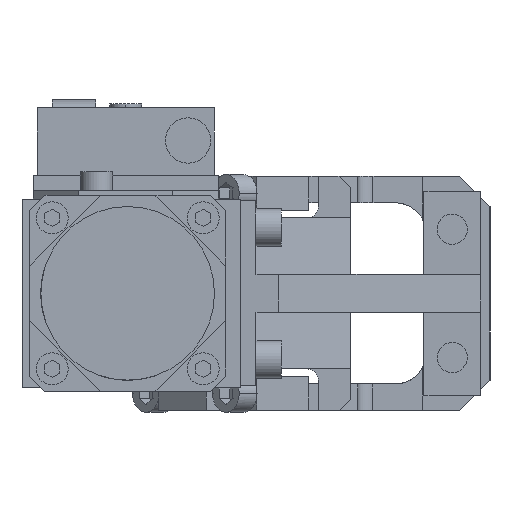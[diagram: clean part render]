
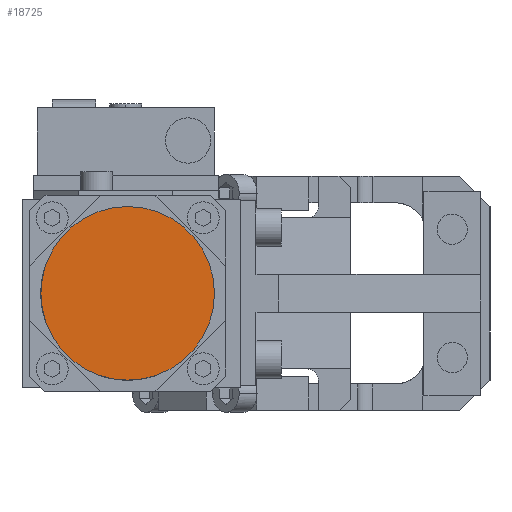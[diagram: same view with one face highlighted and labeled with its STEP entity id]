
A CAD part, front view. The second image highlights one B-rep face of the part: STEP entity #18725.
In plain terms, the highlighted planar face has unit normal (0, -1, 0) as drawn and (0, 1, 0) by its records, which use the part's own axes.
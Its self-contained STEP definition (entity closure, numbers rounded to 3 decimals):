
#1190 = CARTESIAN_POINT ( 'NONE',  ( 0., 113., 0. ) ) ;
#1555 = CARTESIAN_POINT ( 'NONE',  ( 0., 113., -23. ) ) ;
#1669 = FACE_OUTER_BOUND ( 'NONE', #12670, .T. ) ;
#1693 = CIRCLE ( 'NONE', #3972, 23. ) ;
#3972 = AXIS2_PLACEMENT_3D ( 'NONE', #13907, #11759, #9683 ) ;
#6119 = DIRECTION ( 'NONE',  ( 0., 0., 1. ) ) ;
#6209 = EDGE_CURVE ( 'NONE', #12403, #12237, #18461, .T. ) ;
#7239 = AXIS2_PLACEMENT_3D ( 'NONE', #10464, #8299, #6119 ) ;
#8299 = DIRECTION ( 'NONE',  ( 0., 1., 0. ) ) ;
#9683 = DIRECTION ( 'NONE',  ( 0., 0., 1. ) ) ;
#10464 = CARTESIAN_POINT ( 'NONE',  ( 0., 113., 0. ) ) ;
#11152 = CARTESIAN_POINT ( 'NONE',  ( 0., 113., 23. ) ) ;
#11334 = AXIS2_PLACEMENT_3D ( 'NONE', #1190, #19745, #17790 ) ;
#11759 = DIRECTION ( 'NONE',  ( 0., 1., 0. ) ) ;
#12237 = VERTEX_POINT ( 'NONE', #11152 ) ;
#12403 = VERTEX_POINT ( 'NONE', #1555 ) ;
#12557 = PLANE ( 'NONE',  #7239 ) ;
#12670 = EDGE_LOOP ( 'NONE', ( #18248, #17767 ) ) ;
#13907 = CARTESIAN_POINT ( 'NONE',  ( 0., 113., 0. ) ) ;
#14393 = EDGE_CURVE ( 'NONE', #12237, #12403, #1693, .T. ) ;
#17767 = ORIENTED_EDGE ( 'NONE', *, *, #14393, .T. ) ;
#17790 = DIRECTION ( 'NONE',  ( 0., 0., 1. ) ) ;
#18248 = ORIENTED_EDGE ( 'NONE', *, *, #6209, .T. ) ;
#18461 = CIRCLE ( 'NONE', #11334, 23. ) ;
#18725 = ADVANCED_FACE ( 'NONE', ( #1669 ), #12557, .T. ) ;
#19745 = DIRECTION ( 'NONE',  ( 0., 1., 0. ) ) ;
